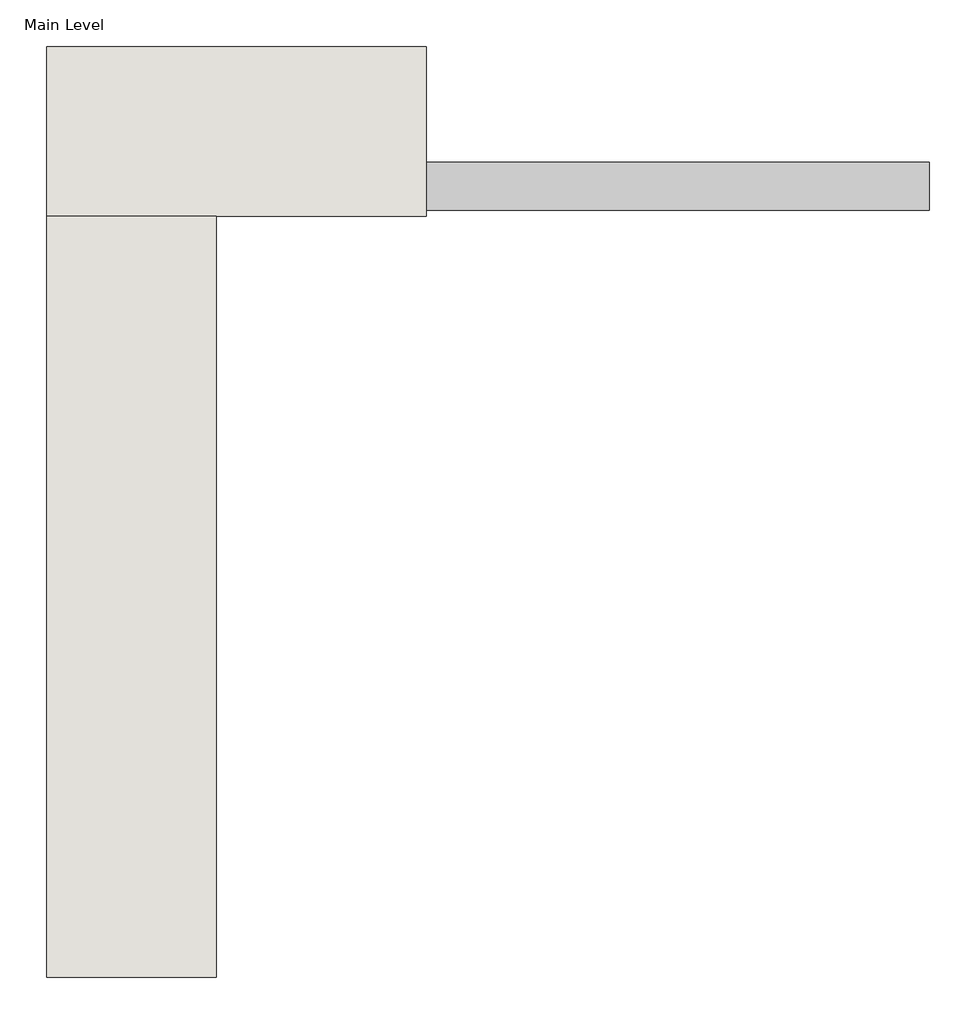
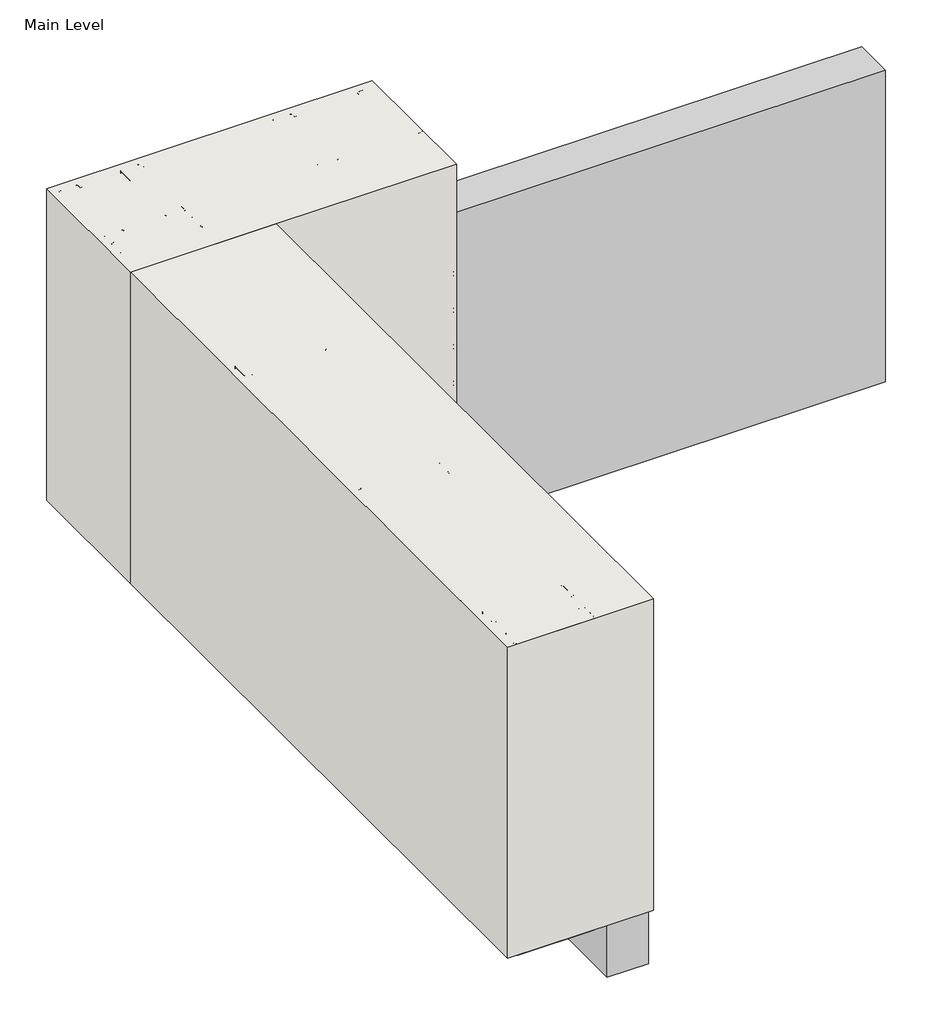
# One storey, incomplete: 14 proxies, 2 walls.
"""IFC4 building model written with IfcOpenShell, lengths in millimetres."""

from ifc_helpers import new_model, si_unit, origin, origin_with_axes, place, context, project, spatial, polyline, outline, extrude, faceted_brep, transform, mapped, element, save
from components import generic_models_03ec6e0e, generic_models_b9febd00, generic_models_feffb954, generic_models_a84ea892, generic_models_29651a44, generic_models_036b76f6, generic_models_34061f7e, proxy_81afb05a, proxy_63d6b373, proxy_d4c17246

model = new_model("IFC4")

# Units and contexts
model_context = context("Model", 3, world=origin())
ifc_project = project(units=[si_unit("LENGTHUNIT", "METRE", prefix="MILLI")], contexts=[model_context])

# Site, building, storey
site = spatial("IfcSite", under=ifc_project)
building = spatial("IfcBuilding", under=site)
storey = spatial("IfcBuildingStorey", under=building, Name="Main Level", Elevation=0.0)

# Proxies
placement = place(None, origin())
generic_models_shape = generic_models_03ec6e0e(model_context)
element("IfcBuildingElementProxy", 1, Name="CRAi Generic Model Drywall Screw : CRAi Generic Model Drywall Screw", ObjectType="CRAi Generic Model Drywall Screw : CRAi Generic Model Drywall Screw", at=placement, inside=storey, context=model_context, shape_type="MappedRepresentation", body=[
    mapped(generic_models_shape, transform((27336.1039273, 608.5816297, 584.2), x_axis=(0.0, 1.0, 0.0), y_axis=(0.0, 0.0, 1.0), z_axis=(1.0, 0.0, 0.0))),
])
element("IfcBuildingElementProxy", 2, Name="CRAi Generic Model Drywall Screw : CRAi Generic Model Drywall Screw", ObjectType="CRAi Generic Model Drywall Screw : CRAi Generic Model Drywall Screw", at=placement, inside=storey, context=model_context, shape_type="MappedRepresentation", body=[
    mapped(generic_models_shape, transform((27301.1789273, 627.6316297, 584.2), x_axis=(1.0, 0.0, 0.0), y_axis=(0.0, 0.0, 1.0), z_axis=(0.0, -1.0, 0.0))),
])
element("IfcBuildingElementProxy", 3, Name="CRAi Generic Model Drywall Screw : CRAi Generic Model Drywall Screw", ObjectType="CRAi Generic Model Drywall Screw : CRAi Generic Model Drywall Screw", at=placement, inside=storey, context=model_context, shape_type="MappedRepresentation", body=[
    mapped(generic_models_shape, transform((27186.8789273, 627.6316297, 584.2), x_axis=(1.0, 0.0, 0.0), y_axis=(0.0, 0.0, 1.0), z_axis=(0.0, -1.0, 0.0))),
])
element("IfcBuildingElementProxy", 4, Name="CRAi Generic Model Drywall Screw : CRAi Generic Model Drywall Screw", ObjectType="CRAi Generic Model Drywall Screw : CRAi Generic Model Drywall Screw", at=placement, inside=storey, context=model_context, shape_type="MappedRepresentation", body=[
    mapped(generic_models_shape, transform((27583.7489273, 627.6316297, 584.2), x_axis=(1.0, 0.0, 0.0), y_axis=(0.0, 0.0, 1.0), z_axis=(0.0, -1.0, 0.0))),
])
element("IfcBuildingElementProxy", 5, Name="CRAi Generic Model Drywall Screw : CRAi Generic Model Drywall Screw", ObjectType="CRAi Generic Model Drywall Screw : CRAi Generic Model Drywall Screw", at=placement, inside=storey, context=model_context, shape_type="MappedRepresentation", body=[
    mapped(generic_models_shape, transform((27336.1039273, 211.7116297, 584.2), x_axis=(0.0, 1.0, 0.0), y_axis=(0.0, 0.0, 1.0), z_axis=(1.0, 0.0, 0.0))),
])
element("IfcBuildingElementProxy", 6, Name="CRAi Generic Model Drywall Screw : CRAi Generic Model Drywall Screw", ObjectType="CRAi Generic Model Drywall Screw : CRAi Generic Model Drywall Screw", at=placement, inside=storey, context=model_context, shape_type="MappedRepresentation", body=[
    mapped(generic_models_shape, transform((27336.1039273, -194.6883703, 584.2), x_axis=(0.0, 1.0, 0.0), y_axis=(0.0, 0.0, 1.0), z_axis=(1.0, 0.0, 0.0))),
])
element("IfcBuildingElementProxy", 7, Name="CRAi Generic Model Drywall Screw : CRAi Generic Model Drywall Screw", ObjectType="CRAi Generic Model Drywall Screw : CRAi Generic Model Drywall Screw", at=placement, inside=storey, context=model_context, shape_type="MappedRepresentation", body=[
    mapped(generic_models_shape, transform((27336.1039273, -601.0883703, 584.2), x_axis=(0.0, 1.0, 0.0), y_axis=(0.0, 0.0, 1.0), z_axis=(1.0, 0.0, 0.0))),
])
generic_models_2_shape = generic_models_b9febd00(model_context)
generic_models_3_shape = generic_models_feffb954(model_context)
generic_models_4_shape = generic_models_a84ea892(model_context)
generic_models_5_shape = generic_models_29651a44(model_context)
element("IfcBuildingElementProxy", 8, Name="CRAi Generic Model Mesh Piece Face Based : Wider Mesh", ObjectType="CRAi Generic Model Mesh Piece Face Based : Wider Mesh", at=placement, inside=storey, context=model_context, shape_type="MappedRepresentation", body=[
    mapped(generic_models_2_shape, transform((27588.5164273, 541.9066297, 215.9), x_axis=(0.0, 0.0, 1.0), y_axis=(-1.0, 0.0, 0.0), z_axis=(0.0, -1.0, 0.0))),
    mapped(generic_models_3_shape, transform((27588.5164273, 541.9066297, 215.9), x_axis=(0.0, 0.0, 1.0), y_axis=(-1.0, 0.0, 0.0), z_axis=(0.0, -1.0, 0.0))),
    mapped(generic_models_4_shape, transform((27588.5164273, 541.9066297, 215.9), x_axis=(0.0, 0.0, 1.0), y_axis=(-1.0, 0.0, 0.0), z_axis=(0.0, -1.0, 0.0))),
    mapped(generic_models_5_shape, transform((27588.5164273, 541.9066297, 215.9), x_axis=(0.0, 0.0, 1.0), y_axis=(-1.0, 0.0, 0.0), z_axis=(0.0, -1.0, 0.0))),
])
generic_models_6_shape = generic_models_036b76f6(model_context)
element("IfcBuildingElementProxy", 9, Name="Durabond Generic Model Metal Stud Array Right : CRAi Generic Model Metal Stud Array", ObjectType="Durabond Generic Model Metal Stud Array Right : CRAi Generic Model Metal Stud Array", at=placement, inside=storey, context=model_context, shape_type="MappedRepresentation", body=[
    mapped(generic_models_6_shape, transform((27244.0289273, -1840.9433703, 0.0), x_axis=(0.0, 1.0, 0.0), y_axis=(-1.0, 0.0, 0.0), z_axis=(0.0, 0.0, 1.0))),
])
generic_models_7_shape = generic_models_34061f7e(model_context)
element("IfcBuildingElementProxy", 10, Name="Durabond Generic Model Metal Stud Array Right : CRAi Generic Model Metal Stud Array", ObjectType="Durabond Generic Model Metal Stud Array Right : CRAi Generic Model Metal Stud Array", at=placement, inside=storey, context=model_context, shape_type="MappedRepresentation", body=[
    mapped(generic_models_7_shape, transform((29636.4039273, 719.7066297, 0.0), x_axis=(-1.0, 0.0, 0.0), y_axis=(0.0, -1.0, 0.0), z_axis=(0.0, 0.0, 1.0))),
])
proxy_shape = proxy_81afb05a(model_context)
element("IfcBuildingElementProxy", 11, Name="Durabond Generic Model Equalite Insulation Board : 3\"", ObjectType="Durabond Generic Model Equalite Insulation Board : 3\"", at=placement, inside=storey, context=model_context, shape_type="MappedRepresentation", body=[
    mapped(proxy_shape, transform((27948.8789273, 624.4566297, 203.2), x_axis=(1.0, 0.0, 0.0), y_axis=(0.0, 0.0, 1.0), z_axis=(0.0, -1.0, 0.0))),
])
element("IfcBuildingElementProxy", 12, Name="Durabond Generic Model Equalite Insulation Board : 3\"", ObjectType="Durabond Generic Model Equalite Insulation Board : 3\"", at=placement, inside=storey, context=model_context, shape_type="MappedRepresentation", body=[
    mapped(proxy_shape, transform((27339.2789273, -61.3433703, 203.2), x_axis=(0.0, -1.0, 0.0), y_axis=(0.0, 0.0, -1.0), z_axis=(1.0, 0.0, 0.0))),
])
proxy_2_shape = proxy_63d6b373(model_context)
element("IfcBuildingElementProxy", 13, Name="Durabond Generic Model Corner 90 Membrane : 4\" Barrier Seam Tape", ObjectType="Durabond Generic Model Corner 90 Membrane : 4\" Barrier Seam Tape", at=placement, inside=storey, context=model_context, shape_type="MappedRepresentation", body=[
    mapped(proxy_2_shape, transform((27336.8976773, 626.8378797, 0.0), x_axis=(-1.0, 0.0, 0.0), y_axis=(0.0, -1.0, 0.0), z_axis=(0.0, 0.0, 1.0))),
])
proxy_3_shape = proxy_d4c17246(model_context)
element("IfcBuildingElementProxy", 14, Name="CRAi Generic Model Metal Stud : Metal Framing Stud - 1\" x 3.5\"", ObjectType="CRAi Generic Model Metal Stud : Metal Framing Stud - 1\" x 3.5\"", at=placement, inside=storey, context=model_context, shape_type="MappedRepresentation", body=[
    mapped(proxy_3_shape, transform((27301.1789273, 719.7066297, 0.0), x_axis=(1.0, 0.0, 0.0), y_axis=(0.0, 1.0, 0.0), z_axis=(0.0, 0.0, 1.0))),
])

# Walls
element("IfcWall", 15, ObjectType="189mm (7.5”) EIFS Field Applied on Mtl. Stud Layer - 50mm Grooved Insulation Board Metal Stud Wall(AirStop) 2", at=placement, inside=storey, context=model_context, shape_type="SweptSolid", body=[
    extrude(outline(polyline([(27425.0039273, 538.7316297), (27425.0039273, -670.9433703), (27155.1289273, -670.9433703), (27155.1289273, 538.7316297), (27425.0039273, 538.7316297)])), origin_with_axes(), (0.0, 0.0, 1.0), 609.6),
])
element("IfcWall", 16, ObjectType="189mm (7.5”) EIFS Field Applied on Mtl. Stud Layer - 50mm Grooved Insulation Board Metal Stud Wall(AirStop) 2", at=placement, inside=storey, context=model_context, shape_type="Brep", body=[
    faceted_brep([(27155.1289273, 538.7316297, 0.0), (27425.0039273, 538.7316297, 0.0), (27758.3789273, 538.7316297, 0.0), (27758.3789273, 538.7316297, 609.6), (27425.0039273, 538.7316297, 609.6), (27155.1289273, 538.7316297, 609.6), (27155.1289273, 808.6066297, 0.0), (27155.1289273, 808.6066297, 609.6), (27758.3789273, 808.6066297, 609.6), (27758.3789273, 808.6066297, 0.0)], [[[0, 1, 2, 3, 4, 5]], [[6, 7, 8, 9]], [[2, 1, 0, 6, 9]], [[3, 2, 9, 8]], [[5, 4, 3, 8, 7]], [[0, 5, 7, 6]]]),
])

save(model, "model.ifc")
